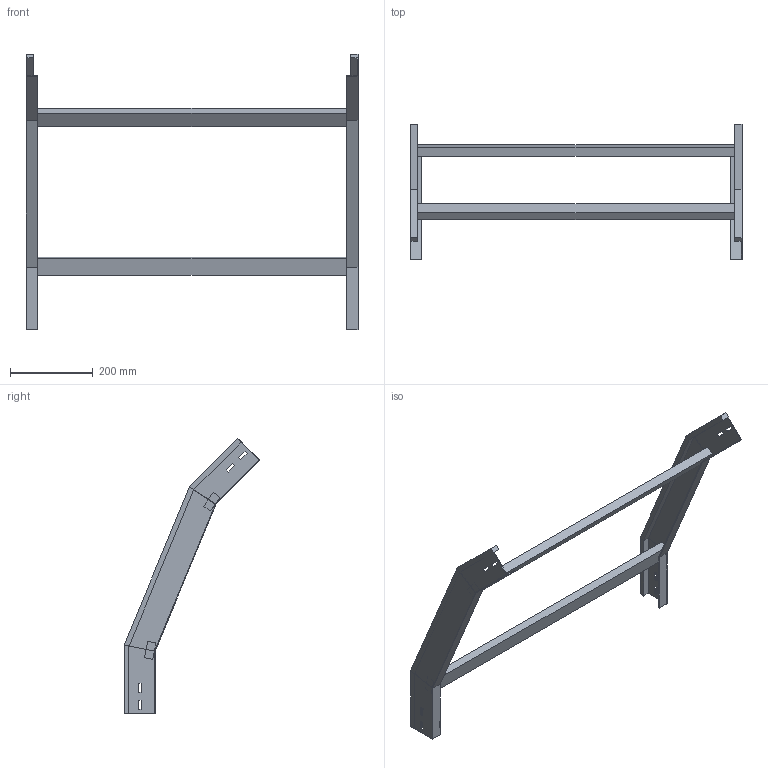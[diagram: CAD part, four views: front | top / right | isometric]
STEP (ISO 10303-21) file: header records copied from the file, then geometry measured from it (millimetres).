
FILE_DESCRIPTION (( 'STEP AP214' ), '1' );
FILE_NAME ('34B5C800.step', '2025-02-21T14:54:38', ( '' ), ( '' ), 'SwSTEP 2.0', 'SolidWorks 2023', '' );
FILE_SCHEMA (( 'AUTOMOTIVE_DESIGN' ));
Length unit declared in the file: millimetre
Products named in the file (3): TRAVERSINO_800; 34B5C800; LONGH.DISCESA_45°_H75_R500
Assembly tree (5 placements, depth 2):
  34B5C800
    LONGH.DISCESA_45°_H75_R500  x2
    TRAVERSINO_800  x3
Bounding box: 800 x 327.63 x 662.94 mm (x, y, z)
Volume: 2497400.1 mm3; surface area: 628998.9 mm2
Topology: 5 solids, 5 shells, 102 faces, 244 edges, 152 vertices
Faces by surface type: plane 102
Entity records: 1480 total; most frequent: CARTESIAN_POINT 244, ORIENTED_EDGE 232, DIRECTION 228, EDGE_CURVE 116, LINE 116, VECTOR 116, VERTEX_POINT 72, AXIS2_PLACEMENT_3D 56
